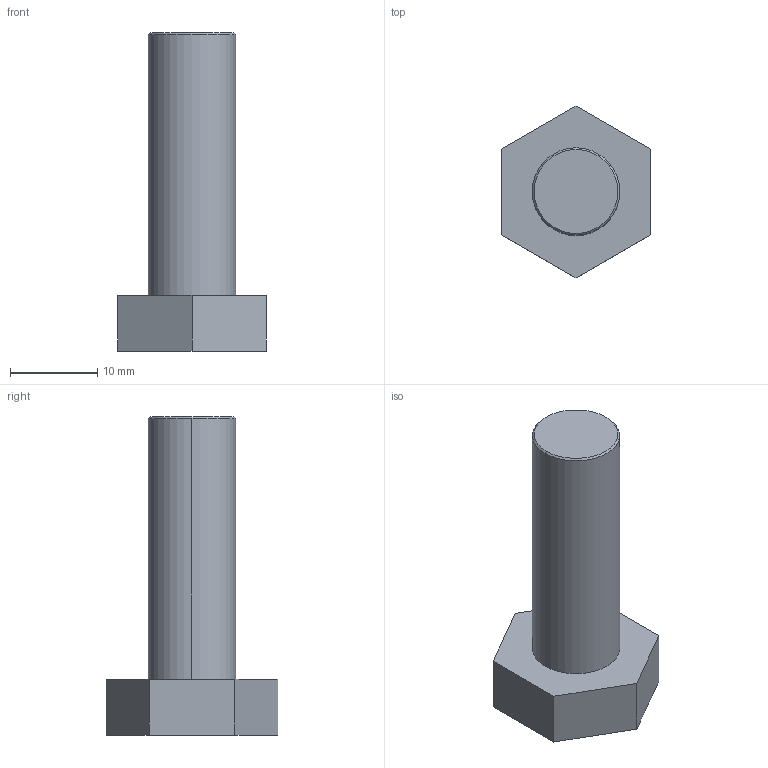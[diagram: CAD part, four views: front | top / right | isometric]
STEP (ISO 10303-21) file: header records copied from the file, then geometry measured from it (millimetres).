
FILE_DESCRIPTION (( 'STEP AP214' ), '1' );
FILE_NAME ('N631245_0-stp-Sechskantschraube.STEP', '2018-07-04T05:40:20', ( '' ), ( '' ), 'SwSTEP 2.0', 'SolidWorks 2017', '' );
FILE_SCHEMA (( 'AUTOMOTIVE_DESIGN' ));
Length unit declared in the file: millimetre
Products named in the file (1): N631245_0-stp-Sechskantschraube
Bounding box: 17 x 19.63 x 36.4 mm (x, y, z)
Volume: 3957.4 mm3; surface area: 1816.2 mm2
Topology: 1 solids, 1 shells, 13 faces, 28 edges, 18 vertices
Faces by surface type: plane 9, cone 2, cylinder 2
Entity records: 529 total; most frequent: DIRECTION 62, CARTESIAN_POINT 60, ORIENTED_EDGE 56, EDGE_CURVE 28, VECTOR 22, LINE 22, AXIS2_PLACEMENT_3D 20, VERTEX_POINT 18
